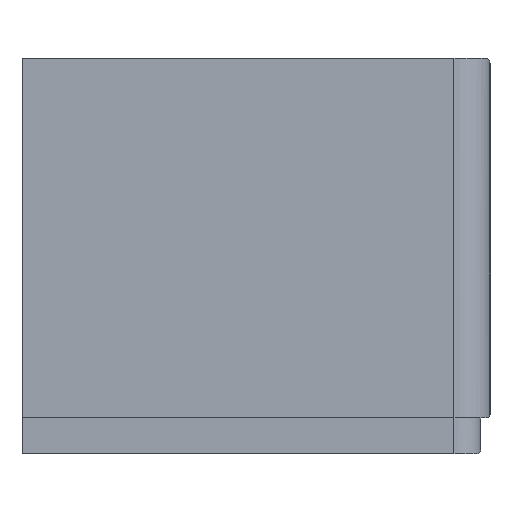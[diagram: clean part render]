
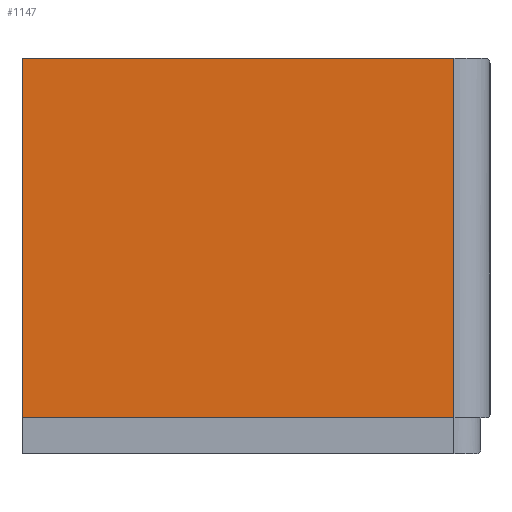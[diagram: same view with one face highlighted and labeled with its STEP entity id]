
A CAD part, left-side view. The second image highlights one B-rep face of the part: STEP entity #1147.
In plain terms, the highlighted planar face has unit normal (-1, 0, 0).
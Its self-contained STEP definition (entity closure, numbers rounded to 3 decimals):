
#669 = EDGE_CURVE( '', #1309, #1249, #1761, .T. );
#701 = EDGE_CURVE( '', #1249, #1383, #1796, .T. );
#749 = VERTEX_POINT( '', #1847 );
#1147 = ADVANCED_FACE( '', ( #2280 ), #2281, .T. );
#1213 = EDGE_CURVE( '', #749, #1383, #2353, .T. );
#1249 = VERTEX_POINT( '', #2392 );
#1309 = VERTEX_POINT( '', #2455 );
#1369 = EDGE_CURVE( '', #749, #1309, #2515, .T. );
#1383 = VERTEX_POINT( '', #2529 );
#1761 = LINE( '', #2978, #2979 );
#1796 = LINE( '', #3030, #3031 );
#1847 = CARTESIAN_POINT( '', ( -4., 0., -9. ) );
#2280 = FACE_OUTER_BOUND( '', #3725, .T. );
#2281 = PLANE( '', #3726 );
#2353 = LINE( '', #3827, #3828 );
#2392 = CARTESIAN_POINT( '', ( -4., -24., 11. ) );
#2455 = CARTESIAN_POINT( '', ( -4., -24., -9. ) );
#2515 = LINE( '', #4052, #4053 );
#2529 = CARTESIAN_POINT( '', ( -4., 0., 11. ) );
#2978 = CARTESIAN_POINT( '', ( -4., -24., -9. ) );
#2979 = VECTOR( '', #4586, 1. );
#3030 = CARTESIAN_POINT( '', ( -4., 0., 11. ) );
#3031 = VECTOR( '', #4680, 1. );
#3725 = EDGE_LOOP( '', ( #5246, #5247, #5248, #5249 ) );
#3726 = AXIS2_PLACEMENT_3D( '', #5250, #5251, #5252 );
#3827 = CARTESIAN_POINT( '', ( -4., 0., -9. ) );
#3828 = VECTOR( '', #5337, 1. );
#4052 = CARTESIAN_POINT( '', ( -4., 0., -9. ) );
#4053 = VECTOR( '', #5465, 1. );
#4586 = DIRECTION( '', ( 0., 0., 1. ) );
#4680 = DIRECTION( '', ( 0., 1., 0. ) );
#5246 = ORIENTED_EDGE( '', *, *, #701, .T. );
#5247 = ORIENTED_EDGE( '', *, *, #1213, .F. );
#5248 = ORIENTED_EDGE( '', *, *, #1369, .T. );
#5249 = ORIENTED_EDGE( '', *, *, #669, .T. );
#5250 = CARTESIAN_POINT( '', ( -4., -24., -9. ) );
#5251 = DIRECTION( '', ( -1., 0., 0. ) );
#5252 = DIRECTION( '', ( 0., -1., 0. ) );
#5337 = DIRECTION( '', ( 0., 0., 1. ) );
#5465 = DIRECTION( '', ( 0., -1., 0. ) );
